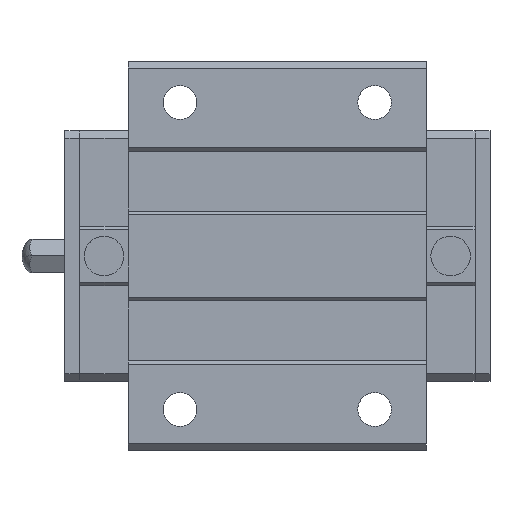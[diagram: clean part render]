
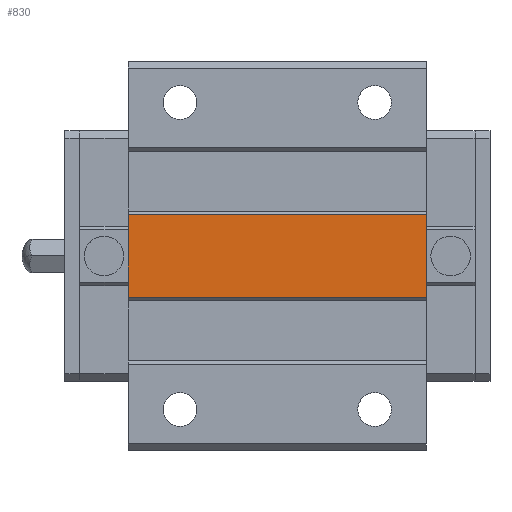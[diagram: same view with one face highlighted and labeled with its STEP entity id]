
A CAD part, top view. The second image highlights one B-rep face of the part: STEP entity #830.
In plain terms, the highlighted planar face has unit normal (0, 0, 1).
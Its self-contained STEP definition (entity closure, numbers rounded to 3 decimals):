
#769=CARTESIAN_POINT('POINT330',(48.3,-5.5,19.5));
#770=VERTEX_POINT('VERTEX330',#769);
#777=CARTESIAN_POINT('POINT331',(8.5,-5.5,19.5));
#778=VERTEX_POINT('VERTEX331',#777);
#779=CARTESIAN_POINT('POS400',(8.5,-5.5,19.5));
#780=DIRECTION('DIR743',(1.,0.,0.));
#781=VECTOR('VEC57',#780,1.);
#782=LINE('STRAIGHT57',#779,#781);
#783=EDGE_CURVE('EDGE451',#778,#770,#782,.T.);
#800=CARTESIAN_POINT('POINT332',(48.3,5.5,19.5));
#801=VERTEX_POINT('VERTEX332',#800);
#802=CARTESIAN_POINT('POS403',(48.3,5.5,19.5));
#803=DIRECTION('DIR747',(0.,1.,0.));
#804=VECTOR('VEC59',#803,1.);
#805=LINE('STRAIGHT59',#802,#804);
#806=EDGE_CURVE('EDGE453',#770,#801,#805,.T.);
#807=ORIENTED_EDGE('COEDGE847',*,*,#806,.T.);
#808=CARTESIAN_POINT('POINT333',(8.5,5.5,19.5));
#809=VERTEX_POINT('VERTEX333',#808);
#810=CARTESIAN_POINT('POS404',(8.5,5.5,19.5));
#811=DIRECTION('DIR748',(1.,0.,0.));
#812=VECTOR('VEC60',#811,1.);
#813=LINE('STRAIGHT60',#810,#812);
#814=EDGE_CURVE('EDGE454',#809,#801,#813,.T.);
#815=ORIENTED_EDGE('COEDGE848',*,*,#814,.F.);
#816=CARTESIAN_POINT('POS405',(8.5,0.,19.5));
#817=DIRECTION('DIR749',(0.,-1.,0.));
#818=VECTOR('VEC61',#817,1.);
#819=LINE('STRAIGHT61',#816,#818);
#820=EDGE_CURVE('EDGE455',#809,#778,#819,.T.);
#821=ORIENTED_EDGE('COEDGE849',*,*,#820,.T.);
#822=ORIENTED_EDGE('COEDGE850',*,*,#783,.T.);
#823=EDGE_LOOP('NONE',(#807,#815,#821,#822));
#824=FACE_BOUND('LOOP1',#823,.T.);
#825=CARTESIAN_POINT('POS406',(8.5,0.,19.5));
#826=DIRECTION('DIR750',(0.,0.,1.));
#827=DIRECTION('DIR751',(1.,0.,0.));
#828=AXIS2_PLACEMENT_3D('AXIS345',#825,#826,#827);
#829=PLANE('PLANE17',#828);
#830=ADVANCED_FACE('FACE170',(#824),#829,.T.);
